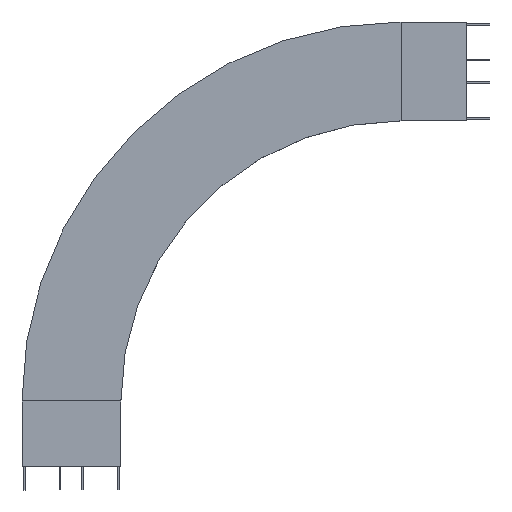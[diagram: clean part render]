
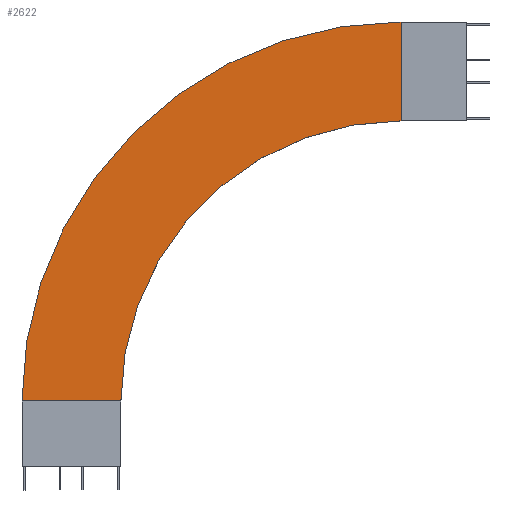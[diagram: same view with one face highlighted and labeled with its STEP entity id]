
A CAD part, top view. The second image highlights one B-rep face of the part: STEP entity #2622.
In plain terms, the highlighted planar face has unit normal (0, 0, 1).
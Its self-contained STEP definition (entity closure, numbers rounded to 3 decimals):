
#5 = EDGE_CURVE ( 'NONE', #774, #1015, #6828, .T. ) ;
#65 = CARTESIAN_POINT ( 'NONE',  ( -1150., 0., 46.5 ) ) ;
#630 = LINE ( 'NONE', #6147, #3401 ) ;
#774 = VERTEX_POINT ( 'NONE', #9266 ) ;
#1015 = VERTEX_POINT ( 'NONE', #5661 ) ;
#2122 = AXIS2_PLACEMENT_3D ( 'NONE', #8530, #9367, #6980 ) ;
#2594 = EDGE_LOOP ( 'NONE', ( #7460, #7575, #4492, #7621 ) ) ;
#2622 = ADVANCED_FACE ( 'NONE', ( #5365 ), #8736, .T. ) ;
#2657 = DIRECTION ( 'NONE',  ( 0., 0., 1. ) ) ;
#3116 = EDGE_CURVE ( 'NONE', #9774, #8923, #5427, .T. ) ;
#3401 = VECTOR ( 'NONE', #8746, 1000. ) ;
#3691 = AXIS2_PLACEMENT_3D ( 'NONE', #8418, #6075, #8564 ) ;
#3919 = CARTESIAN_POINT ( 'NONE',  ( -1150., 0., 46.5 ) ) ;
#4492 = ORIENTED_EDGE ( 'NONE', *, *, #8799, .T. ) ;
#5110 = EDGE_CURVE ( 'NONE', #1015, #8923, #8672, .T. ) ;
#5223 = CARTESIAN_POINT ( 'NONE',  ( 0., 1150., 46.5 ) ) ;
#5365 = FACE_OUTER_BOUND ( 'NONE', #2594, .T. ) ;
#5427 = CIRCLE ( 'NONE', #9736, 1150. ) ;
#5661 = CARTESIAN_POINT ( 'NONE',  ( -850., 0., 46.5 ) ) ;
#5739 = CARTESIAN_POINT ( 'NONE',  ( 0., 0., 46.5 ) ) ;
#6075 = DIRECTION ( 'NONE',  ( 0., 0., 1. ) ) ;
#6147 = CARTESIAN_POINT ( 'NONE',  ( 0., 1150., 46.5 ) ) ;
#6828 = CIRCLE ( 'NONE', #3691, 850. ) ;
#6932 = VECTOR ( 'NONE', #7122, 1000. ) ;
#6980 = DIRECTION ( 'NONE',  ( 1., 0., 0. ) ) ;
#7122 = DIRECTION ( 'NONE',  ( -1., 0., 0. ) ) ;
#7460 = ORIENTED_EDGE ( 'NONE', *, *, #5110, .F. ) ;
#7575 = ORIENTED_EDGE ( 'NONE', *, *, #5, .F. ) ;
#7621 = ORIENTED_EDGE ( 'NONE', *, *, #3116, .T. ) ;
#8418 = CARTESIAN_POINT ( 'NONE',  ( 0., 0., 46.5 ) ) ;
#8530 = CARTESIAN_POINT ( 'NONE',  ( 0., 1150., 46.5 ) ) ;
#8564 = DIRECTION ( 'NONE',  ( 0., 1., 0. ) ) ;
#8672 = LINE ( 'NONE', #3919, #6932 ) ;
#8736 = PLANE ( 'NONE',  #2122 ) ;
#8746 = DIRECTION ( 'NONE',  ( 0., 1., 0. ) ) ;
#8799 = EDGE_CURVE ( 'NONE', #774, #9774, #630, .T. ) ;
#8919 = DIRECTION ( 'NONE',  ( 0., 1., 0. ) ) ;
#8923 = VERTEX_POINT ( 'NONE', #65 ) ;
#9266 = CARTESIAN_POINT ( 'NONE',  ( 0., 850., 46.5 ) ) ;
#9367 = DIRECTION ( 'NONE',  ( 0., 0., 1. ) ) ;
#9736 = AXIS2_PLACEMENT_3D ( 'NONE', #5739, #2657, #8919 ) ;
#9774 = VERTEX_POINT ( 'NONE', #5223 ) ;
